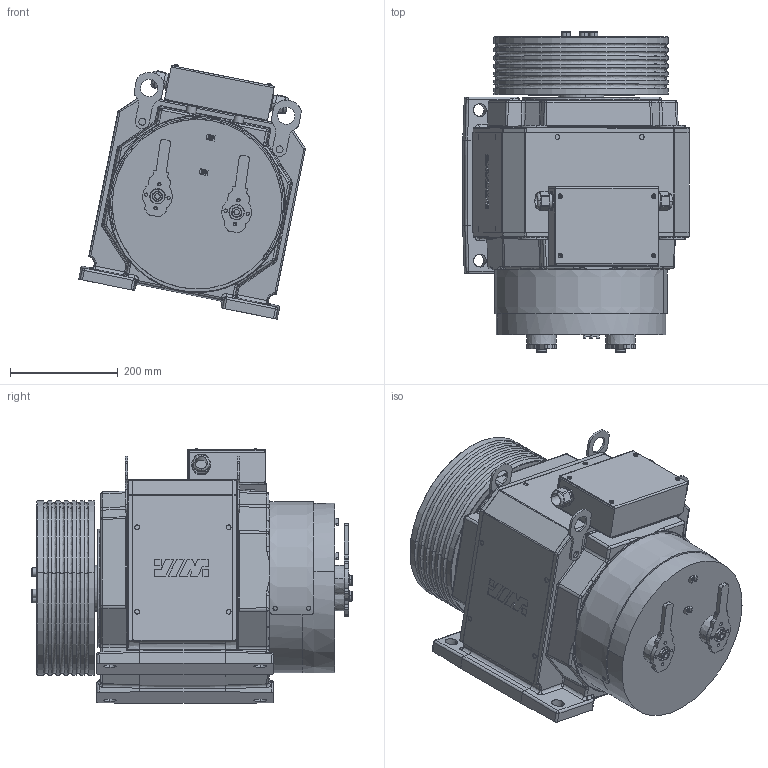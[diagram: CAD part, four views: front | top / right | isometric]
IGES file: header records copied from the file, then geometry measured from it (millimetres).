
Start section: START RECORD GO HERE.
Global section: file name: 1403-08-27-ASM ALL MOTOR GEARLLES BM300_AllCATPart.igs; native system: DASSAULT SYSTEMES CATIA Version 5-6 Release 2017 - www.3ds.com; preprocessor: V5-6R2017_5.27.2.0.03-10-2017.22.00; author: s_fazeli; organization: BEHRANLIFT; date: 20241117.101151; units: millimetre
Bounding box: 421.23 x 594.77 x 472.55 mm (x, y, z)
Surface area: 1538959 mm2 (no closed solid volume)
Topology: 0 solids, 0 shells, 2200 faces, 11402 edges, 11314 vertices
Faces by surface type: revolution 1179, plane 637, bspline 303, extrusion 81
